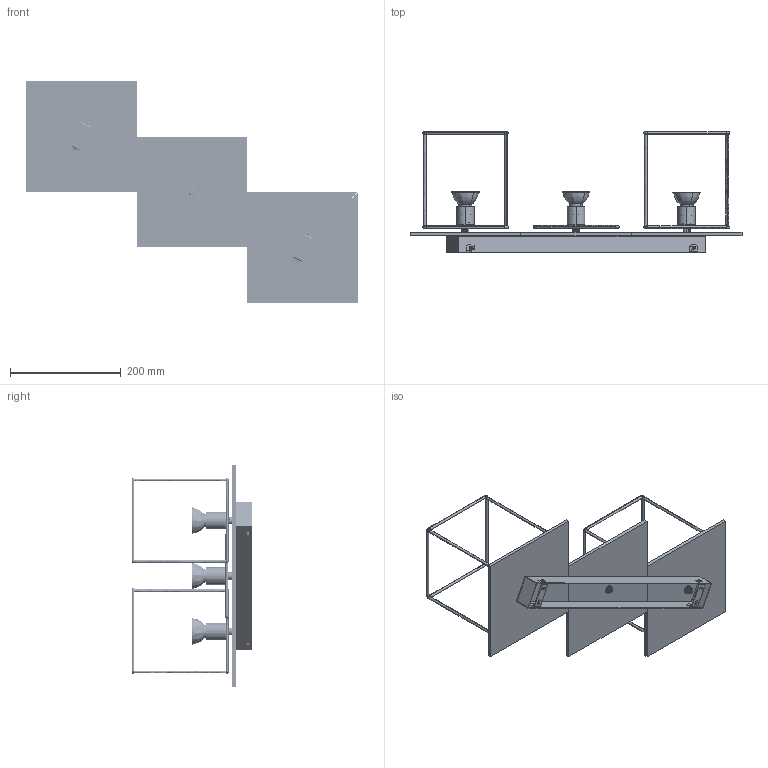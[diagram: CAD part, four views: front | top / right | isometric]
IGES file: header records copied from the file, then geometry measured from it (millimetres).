
Start section: SolidWorks IGES file using analytic representation for surfaces
Global section: file name: E:\3D lampy\Coba\Coba_9724.IGS; native system: SolidWorks 2016; preprocessor: SolidWorks 2016; author: Asia; date: 170622.114348; units: millimetre
Bounding box: 600 x 218 x 400 mm (x, y, z)
Surface area: 517643.9 mm2 (no closed solid volume)
Topology: 0 solids, 0 shells, 1045 faces, 17404 edges, 17359 vertices
Faces by surface type: revolution 578, bspline 467
